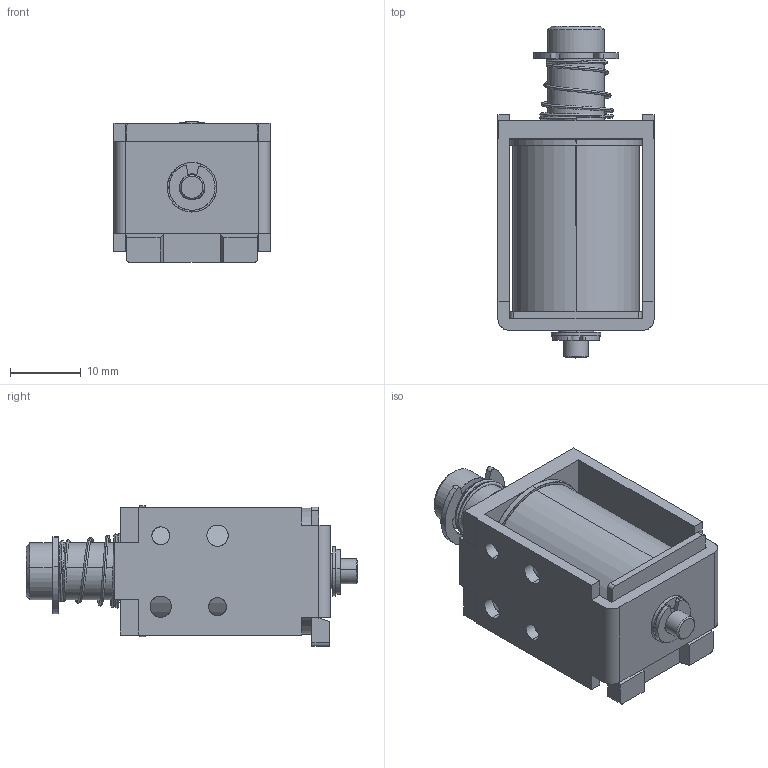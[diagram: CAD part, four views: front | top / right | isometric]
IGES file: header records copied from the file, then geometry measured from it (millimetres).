
Start section: SolidWorks IGES file using analytic representation for surfaces
Global section: file name: L:\カタログ\web用3Dデータ\CB0830\3D_CB0830\w_cb0830.IGS; native system: SolidWorks 2014; preprocessor: SolidWorks 2014; author: jiba; date: 140716.133252; units: millimetre
Bounding box: 22 x 46.8 x 19.85 mm (x, y, z)
Surface area: 7748.8 mm2 (no closed solid volume)
Topology: 0 solids, 0 shells, 173 faces, 2462 edges, 2462 vertices
Faces by surface type: revolution 90, bspline 83
